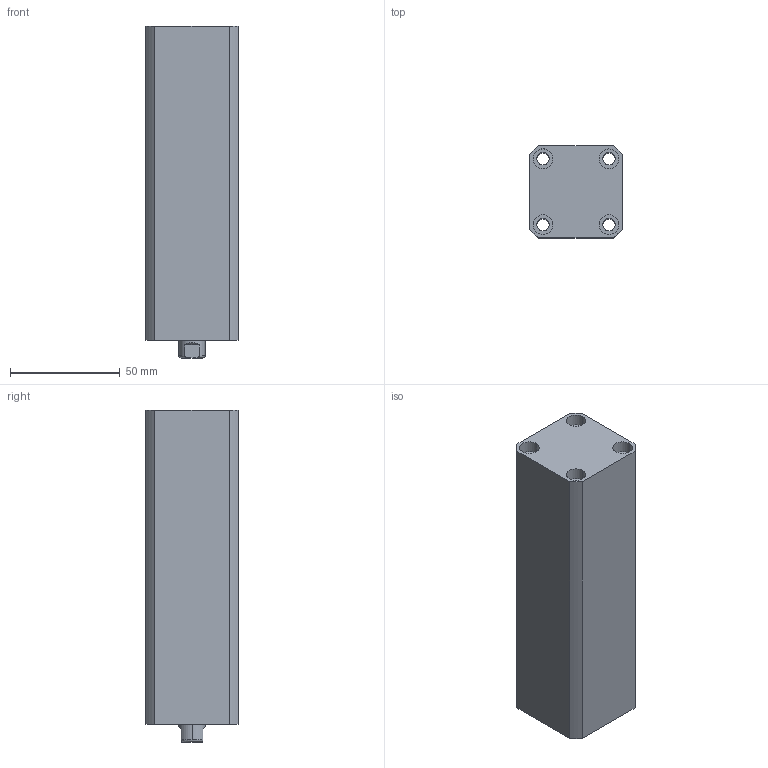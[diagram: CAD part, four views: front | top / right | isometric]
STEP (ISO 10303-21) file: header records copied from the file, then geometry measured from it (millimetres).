
FILE_DESCRIPTION (( 'STEP AP214' ), '1' );
FILE_NAME ('chtb-sd20x100n_asm.STEP', '2018-04-26T12:47:57', ( 'Windows' ), ( 'Microsoft' ), 'SwSTEP 2.0', 'SolidWorks 2015', '' );
FILE_SCHEMA (( 'AUTOMOTIVE_DESIGN' ));
Length unit declared in the file: millimetre
Products named in the file (4): QG; CHTB-SD20X100NHSG; CHTB-SD20X100NBT; chtb-sd20x100n_asm
Assembly tree (3 placements, depth 2):
  chtb-sd20x100n_asm
    CHTB-SD20X100NBT
    CHTB-SD20X100NHSG
    QG
Bounding box: 42 x 42 x 151 mm (x, y, z)
Volume: 209309.6 mm3; surface area: 57610.2 mm2
Topology: 3 solids, 3 shells, 192 faces, 499 edges, 330 vertices
Faces by surface type: cylinder 102, plane 36, torus 25, bspline 19, cone 10
Entity records: 10524 total; most frequent: CARTESIAN_POINT 5851, ORIENTED_EDGE 986, DIRECTION 903, EDGE_CURVE 493, AXIS2_PLACEMENT_3D 385, VERTEX_POINT 330, EDGE_LOOP 229, CIRCLE 206
